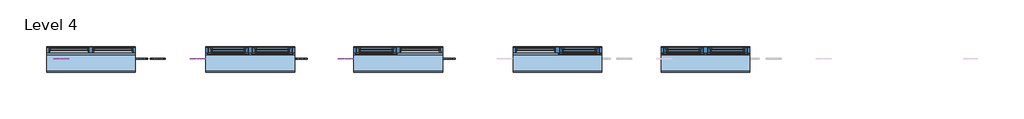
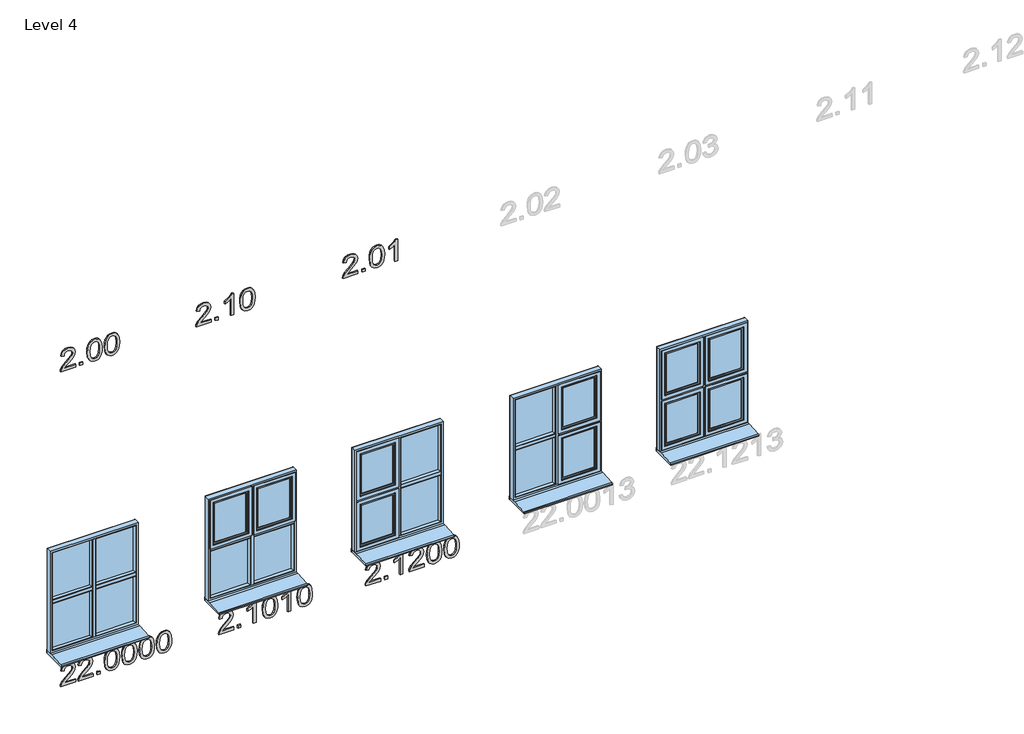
# One storey, part 1 of 2: 6 proxies, 5 windows.
"""IFC4 building model written with IfcOpenShell, lengths in millimetres."""

from ifc_helpers import new_model, si_unit, frame, origin, place, context, project, spatial, polyline, outline, extrude, transform, mapped, element, save
from components import standard_2_6dee1fca, standard_2_6696740c, standard_2_e76dede1, standard_2_dd93400c, standard_2_fe74481d, standard_2_6e61233b

model = new_model("IFC4")

# Units and contexts
model_context = context("Model", 3, world=origin())
ifc_project = project(units=[si_unit("LENGTHUNIT", "METRE", prefix="MILLI")], contexts=[model_context])

# Site, building, storey
site = spatial("IfcSite", under=ifc_project)
building = spatial("IfcBuilding", under=site)
storey = spatial("IfcBuildingStorey", under=building, Name="Level 4", Elevation=9000.0)

# Proxies
placement = place(None, origin())
element("IfcBuildingElementProxy", 1, Name="200mm Arial", ObjectType="200mm Arial", at=placement, inside=storey, context=model_context, shape_type="SweptSolid", body=[
    extrude(outline(polyline([(11979.7533372, -171019.8584647), (11979.7533372, -171118.4998903), (11992.5311052, -171107.1691249), (12016.6886895, -171078.2781255), (12051.0979188, -171042.2992664), (12075.721487, -171027.4613593), (12099.5357149, -171022.9977244), (12121.4369563, -171027.1363968), (12139.4631741, -171039.5524142), (12151.5297035, -171059.068554), (12155.55188, -171084.507594), (12151.9343737, -171109.7626929), (12141.0818548, -171129.315621), (12123.3376799, -171142.4796651), (12099.0452055, -171148.5681121), (12095.9059458, -171123.4540345), (12110.3391828, -171120.7378391), (12121.265278, -171112.8835585), (12128.1446714, -171100.7127959), (12130.4378025, -171085.0471542), (12128.0894891, -171070.1295393), (12121.0445488, -171058.3389214), (12110.5905688, -171050.6685818), (12098.0151359, -171048.1118019), (12083.9865692, -171050.821866), (12069.565595, -171058.952058), (12027.7251494, -171102.3130825), (11998.6134208, -171133.7547304), (11971.9542389, -171149.0095705), (11954.6392597, -171151.7073718), (11954.6392597, -171019.8584647), (11979.7533372, -171019.8584647)])), frame((0.0, 24202.6264647, 0.0), z_axis=(0.0, 1.0, 0.0), x_axis=(0.0, 0.0, 1.0)), (0.0, 0.0, 1.0), 10.0),
    extrude(outline(polyline([(-170957.0732708, 24202.6264647), (-170982.1873484, 24202.6264647), (-170982.1873484, 24212.6264647), (-170957.0732708, 24212.6264647), (-170957.0732708, 24202.6264647)])), frame((0.0, 0.0, 11954.6392597), z_axis=(0.0, 0.0, 1.0), x_axis=(1.0, 0.0, 0.0)), (0.0, 0.0, 1.0), 25.1140775),
    extrude(outline(polyline([(12053.4768891, -170916.2628949), (12004.6098974, -170911.2596997), (11985.7590108, -170905.0057058), (11970.6298637, -170896.2501143), (11956.2824659, -170876.4335375), (11951.5, -170850.3384413), (11954.2529836, -170830.0374865), (11962.5119344, -170813.5747673), (11976.3688229, -170800.8399189), (11995.9156196, -170791.7225768), (12021.5018123, -170786.241135), (12053.4768891, -170784.4139878), (12100.6884118, -170788.9757245), (12130.413277, -170800.7479484), (12141.1738253, -170809.4177007), (12149.0771569, -170821.0059836), (12153.9331992, -170834.8628721), (12155.55188, -170850.3384413), (12152.8172905, -170870.5290315), (12144.613522, -170886.9549626), (12130.8118158, -170899.7082051), (12111.2834132, -170908.8807295), (12085.6359068, -170914.4173535), (12053.4768891, -170916.2628949)]), holes=[polyline([(12053.52594, -170891.1488173), (12092.5214315, -170888.1076595), (12116.9978469, -170878.984186), (12127.0778136, -170866.3535708), (12130.4378025, -170850.6327469), (12126.6240924, -170834.0290062), (12115.1829624, -170820.9078817), (12092.1412868, -170812.3730194), (12053.52594, -170809.5280653), (12014.0828587, -170812.4711213), (11991.20673, -170821.3002892), (11980.2622407, -170834.4459391), (11976.6140775, -170850.3384413), (11980.2499779, -170866.2309435), (11991.1576791, -170879.3765935), (12014.0215451, -170888.2057614), (12053.52594, -170891.1488173)])]), frame((0.0, 24202.6264647, 0.0), z_axis=(0.0, 1.0, 0.0), x_axis=(0.0, 0.0, 1.0)), (0.0, 0.0, 1.0), 10.0),
    extrude(outline(polyline([(12053.4768891, -170762.4391699), (12004.6098974, -170757.4359748), (11985.7590108, -170751.1819809), (11970.6298637, -170742.4263894), (11956.2824659, -170722.6098126), (11951.5, -170696.5147164), (11954.2529836, -170676.2137616), (11962.5119344, -170659.7510423), (11976.3688229, -170647.0161939), (11995.9156196, -170637.8988518), (12021.5018123, -170632.4174101), (12053.4768891, -170630.5902629), (12100.6884118, -170635.1519996), (12130.413277, -170646.9242234), (12141.1738253, -170655.5939758), (12149.0771569, -170667.1822587), (12153.9331992, -170681.0391471), (12155.55188, -170696.5147164), (12152.8172905, -170716.7053066), (12144.613522, -170733.1312377), (12130.8118158, -170745.8844802), (12111.2834132, -170755.0570046), (12085.6359068, -170760.5936286), (12053.4768891, -170762.4391699)]), holes=[polyline([(12053.52594, -170737.3250924), (12092.5214315, -170734.2839346), (12116.9978469, -170725.1604611), (12127.0778136, -170712.5298459), (12130.4378025, -170696.809022), (12126.6240924, -170680.2052813), (12115.1829624, -170667.0841568), (12092.1412868, -170658.5492945), (12053.52594, -170655.7043404), (12014.0828587, -170658.6473964), (11991.20673, -170667.4765642), (11980.2622407, -170680.6222142), (11976.6140775, -170696.5147164), (11980.2499779, -170712.4072186), (11991.1576791, -170725.5528686), (12014.0215451, -170734.3820364), (12053.52594, -170737.3250924)])]), frame((0.0, 24202.6264647, 0.0), z_axis=(0.0, 1.0, 0.0), x_axis=(0.0, 0.0, 1.0)), (0.0, 0.0, 1.0), 10.0),
])
element("IfcBuildingElementProxy", 2, Name="200mm Arial", ObjectType="200mm Arial", at=placement, inside=storey, context=model_context, shape_type="SweptSolid", body=[
    extrude(outline(polyline([(11979.7533372, -169819.8584647), (11979.7533372, -169918.4998903), (11992.5311052, -169907.1691249), (12016.6886895, -169878.2781255), (12051.0979188, -169842.2992664), (12075.721487, -169827.4613593), (12099.5357149, -169822.9977244), (12121.4369563, -169827.1363968), (12139.4631741, -169839.5524142), (12151.5297035, -169859.068554), (12155.55188, -169884.507594), (12151.9343737, -169909.7626929), (12141.0818548, -169929.315621), (12123.3376799, -169942.4796651), (12099.0452055, -169948.5681121), (12095.9059458, -169923.4540345), (12110.3391828, -169920.7378391), (12121.265278, -169912.8835585), (12128.1446714, -169900.7127959), (12130.4378025, -169885.0471542), (12128.0894891, -169870.1295393), (12121.0445488, -169858.3389214), (12110.5905688, -169850.6685818), (12098.0151359, -169848.1118019), (12083.9865692, -169850.821866), (12069.565595, -169858.952058), (12027.7251494, -169902.3130825), (11998.6134208, -169933.7547304), (11971.9542389, -169949.0095705), (11954.6392597, -169951.7073718), (11954.6392597, -169819.8584647), (11979.7533372, -169819.8584647)])), frame((0.0, 24202.6264647, 0.0), z_axis=(0.0, 1.0, 0.0), x_axis=(0.0, 0.0, 1.0)), (0.0, 0.0, 1.0), 10.0),
    extrude(outline(polyline([(-169757.0732708, 24202.6264647), (-169782.1873484, 24202.6264647), (-169782.1873484, 24212.6264647), (-169757.0732708, 24212.6264647), (-169757.0732708, 24202.6264647)])), frame((0.0, 0.0, 11954.6392597), z_axis=(0.0, 0.0, 1.0), x_axis=(1.0, 0.0, 0.0)), (0.0, 0.0, 1.0), 25.1140775),
    extrude(outline(polyline([(11954.6392597, -169622.0851041), (12155.55188, -169622.0851041), (12155.55188, -169638.2719119), (12142.3939673, -169647.1439993), (12128.8191217, -169660.6146117), (12105.3237249, -169697.4273367), (12081.5830735, -169697.4273367), (12094.2627396, -169670.988884), (12111.2098368, -169647.1991816), (11954.6392597, -169647.1991816), (11954.6392597, -169622.0851041)])), frame((0.0, 24202.6264647, 0.0), z_axis=(0.0, 1.0, 0.0), x_axis=(0.0, 0.0, 1.0)), (0.0, 0.0, 1.0), 10.0),
    extrude(outline(polyline([(12053.4768891, -169562.4391699), (12004.6098974, -169557.4359748), (11985.7590108, -169551.1819809), (11970.6298637, -169542.4263894), (11956.2824659, -169522.6098126), (11951.5, -169496.5147164), (11954.2529836, -169476.2137616), (11962.5119344, -169459.7510423), (11976.3688229, -169447.0161939), (11995.9156196, -169437.8988518), (12021.5018123, -169432.4174101), (12053.4768891, -169430.5902629), (12100.6884118, -169435.1519996), (12130.413277, -169446.9242234), (12141.1738253, -169455.5939758), (12149.0771569, -169467.1822587), (12153.9331992, -169481.0391471), (12155.55188, -169496.5147164), (12152.8172905, -169516.7053066), (12144.613522, -169533.1312377), (12130.8118158, -169545.8844802), (12111.2834132, -169555.0570046), (12085.6359068, -169560.5936286), (12053.4768891, -169562.4391699)]), holes=[polyline([(12053.52594, -169537.3250924), (12092.5214315, -169534.2839346), (12116.9978469, -169525.1604611), (12127.0778136, -169512.5298459), (12130.4378025, -169496.809022), (12126.6240924, -169480.2052813), (12115.1829624, -169467.0841568), (12092.1412868, -169458.5492945), (12053.52594, -169455.7043404), (12014.0828587, -169458.6473964), (11991.20673, -169467.4765642), (11980.2622407, -169480.6222142), (11976.6140775, -169496.5147164), (11980.2499779, -169512.4072186), (11991.1576791, -169525.5528686), (12014.0215451, -169534.3820364), (12053.52594, -169537.3250924)])]), frame((0.0, 24202.6264647, 0.0), z_axis=(0.0, 1.0, 0.0), x_axis=(0.0, 0.0, 1.0)), (0.0, 0.0, 1.0), 10.0),
])
element("IfcBuildingElementProxy", 3, Name="200mm Arial", ObjectType="200mm Arial", at=placement, inside=storey, context=model_context, shape_type="SweptSolid", body=[
    extrude(outline(polyline([(11979.7533372, -168519.8584647), (11979.7533372, -168618.4998903), (11992.5311052, -168607.1691249), (12016.6886895, -168578.2781255), (12051.0979188, -168542.2992664), (12075.721487, -168527.4613593), (12099.5357149, -168522.9977244), (12121.4369563, -168527.1363968), (12139.4631741, -168539.5524142), (12151.5297035, -168559.068554), (12155.55188, -168584.507594), (12151.9343737, -168609.7626929), (12141.0818548, -168629.315621), (12123.3376799, -168642.4796651), (12099.0452055, -168648.5681121), (12095.9059458, -168623.4540345), (12110.3391828, -168620.7378391), (12121.265278, -168612.8835585), (12128.1446714, -168600.7127959), (12130.4378025, -168585.0471542), (12128.0894891, -168570.1295393), (12121.0445488, -168558.3389214), (12110.5905688, -168550.6685818), (12098.0151359, -168548.1118019), (12083.9865692, -168550.821866), (12069.565595, -168558.952058), (12027.7251494, -168602.3130825), (11998.6134208, -168633.7547304), (11971.9542389, -168649.0095705), (11954.6392597, -168651.7073718), (11954.6392597, -168519.8584647), (11979.7533372, -168519.8584647)])), frame((0.0, 24202.6264647, 0.0), z_axis=(0.0, 1.0, 0.0), x_axis=(0.0, 0.0, 1.0)), (0.0, 0.0, 1.0), 10.0),
    extrude(outline(polyline([(-168457.0732708, 24202.6264647), (-168482.1873484, 24202.6264647), (-168482.1873484, 24212.6264647), (-168457.0732708, 24212.6264647), (-168457.0732708, 24202.6264647)])), frame((0.0, 0.0, 11954.6392597), z_axis=(0.0, 0.0, 1.0), x_axis=(1.0, 0.0, 0.0)), (0.0, 0.0, 1.0), 25.1140775),
    extrude(outline(polyline([(12053.4768891, -168416.2628949), (12004.6098974, -168411.2596997), (11985.7590108, -168405.0057058), (11970.6298637, -168396.2501143), (11956.2824659, -168376.4335375), (11951.5, -168350.3384413), (11954.2529836, -168330.0374865), (11962.5119344, -168313.5747673), (11976.3688229, -168300.8399189), (11995.9156196, -168291.7225768), (12021.5018123, -168286.241135), (12053.4768891, -168284.4139878), (12100.6884118, -168288.9757245), (12130.413277, -168300.7479484), (12141.1738253, -168309.4177007), (12149.0771569, -168321.0059836), (12153.9331992, -168334.8628721), (12155.55188, -168350.3384413), (12152.8172905, -168370.5290315), (12144.613522, -168386.9549626), (12130.8118158, -168399.7082051), (12111.2834132, -168408.8807295), (12085.6359068, -168414.4173535), (12053.4768891, -168416.2628949)]), holes=[polyline([(12053.52594, -168391.1488173), (12092.5214315, -168388.1076595), (12116.9978469, -168378.984186), (12127.0778136, -168366.3535708), (12130.4378025, -168350.6327469), (12126.6240924, -168334.0290062), (12115.1829624, -168320.9078817), (12092.1412868, -168312.3730194), (12053.52594, -168309.5280653), (12014.0828587, -168312.4711213), (11991.20673, -168321.3002892), (11980.2622407, -168334.4459391), (11976.6140775, -168350.3384413), (11980.2499779, -168366.2309435), (11991.1576791, -168379.3765935), (12014.0215451, -168388.2057614), (12053.52594, -168391.1488173)])]), frame((0.0, 24202.6264647, 0.0), z_axis=(0.0, 1.0, 0.0), x_axis=(0.0, 0.0, 1.0)), (0.0, 0.0, 1.0), 10.0),
    extrude(outline(polyline([(11954.6392597, -168168.2613792), (12155.55188, -168168.2613792), (12155.55188, -168184.448187), (12142.3939673, -168193.3202744), (12128.8191217, -168206.7908868), (12105.3237249, -168243.6036118), (12081.5830735, -168243.6036118), (12094.2627396, -168217.1651591), (12111.2098368, -168193.3754567), (11954.6392597, -168193.3754567), (11954.6392597, -168168.2613792)])), frame((0.0, 24202.6264647, 0.0), z_axis=(0.0, 1.0, 0.0), x_axis=(0.0, 0.0, 1.0)), (0.0, 0.0, 1.0), 10.0),
])
element("IfcBuildingElementProxy", 4, Name="200mm Arial", ObjectType="200mm Arial", at=placement, inside=storey, context=model_context, shape_type="SweptSolid", body=[
    extrude(outline(polyline([(9028.2533372, -171019.8584647), (9028.2533372, -171118.4998903), (9041.0311052, -171107.1691249), (9065.1886895, -171078.2781255), (9099.5979188, -171042.2992664), (9124.221487, -171027.4613593), (9148.0357149, -171022.9977244), (9169.9369563, -171027.1363968), (9187.9631741, -171039.5524142), (9200.0297035, -171059.068554), (9204.05188, -171084.507594), (9200.4343737, -171109.7626929), (9189.5818548, -171129.315621), (9171.8376799, -171142.4796651), (9147.5452055, -171148.5681121), (9144.4059458, -171123.4540345), (9158.8391828, -171120.7378391), (9169.765278, -171112.8835585), (9176.6446714, -171100.7127959), (9178.9378025, -171085.0471542), (9176.5894891, -171070.1295393), (9169.5445488, -171058.3389214), (9159.0905688, -171050.6685818), (9146.5151359, -171048.1118019), (9132.4865692, -171050.821866), (9118.065595, -171058.952058), (9076.2251494, -171102.3130825), (9047.1134208, -171133.7547304), (9020.4542389, -171149.0095705), (9003.1392597, -171151.7073718), (9003.1392597, -171019.8584647), (9028.2533372, -171019.8584647)])), frame((0.0, 24202.6264647, 0.0), z_axis=(0.0, 1.0, 0.0), x_axis=(0.0, 0.0, 1.0)), (0.0, 0.0, 1.0), 10.0),
    extrude(outline(polyline([(9028.2533372, -170866.0347398), (9028.2533372, -170964.6761654), (9041.0311052, -170953.3454), (9065.1886895, -170924.4544006), (9099.5979188, -170888.4755415), (9124.221487, -170873.6376343), (9148.0357149, -170869.1739995), (9169.9369563, -170873.3126719), (9187.9631741, -170885.7286893), (9200.0297035, -170905.2448291), (9204.05188, -170930.6838691), (9200.4343737, -170955.938968), (9189.5818548, -170975.4918961), (9171.8376799, -170988.6559401), (9147.5452055, -170994.7443872), (9144.4059458, -170969.6303096), (9158.8391828, -170966.9141142), (9169.765278, -170959.0598336), (9176.6446714, -170946.8890709), (9178.9378025, -170931.2234293), (9176.5894891, -170916.3058144), (9169.5445488, -170904.5151965), (9159.0905688, -170896.8448569), (9146.5151359, -170894.288077), (9132.4865692, -170896.998141), (9118.065595, -170905.1283331), (9076.2251494, -170948.4893576), (9047.1134208, -170979.9310055), (9020.4542389, -170995.1858455), (9003.1392597, -170997.8836468), (9003.1392597, -170866.0347398), (9028.2533372, -170866.0347398)])), frame((0.0, 24202.6264647, 0.0), z_axis=(0.0, 1.0, 0.0), x_axis=(0.0, 0.0, 1.0)), (0.0, 0.0, 1.0), 10.0),
    extrude(outline(polyline([(-170803.2495459, 24202.6264647), (-170828.3636235, 24202.6264647), (-170828.3636235, 24212.6264647), (-170803.2495459, 24212.6264647), (-170803.2495459, 24202.6264647)])), frame((0.0, 0.0, 9003.1392597), z_axis=(0.0, 0.0, 1.0), x_axis=(1.0, 0.0, 0.0)), (0.0, 0.0, 1.0), 25.1140775),
    extrude(outline(polyline([(9101.9768891, -170762.4391699), (9053.1098974, -170757.4359748), (9034.2590108, -170751.1819809), (9019.1298637, -170742.4263894), (9004.7824659, -170722.6098126), (9000.0, -170696.5147164), (9002.7529836, -170676.2137616), (9011.0119344, -170659.7510423), (9024.8688229, -170647.0161939), (9044.4156196, -170637.8988518), (9070.0018123, -170632.4174101), (9101.9768891, -170630.5902629), (9149.1884118, -170635.1519996), (9178.913277, -170646.9242234), (9189.6738253, -170655.5939758), (9197.5771569, -170667.1822587), (9202.4331992, -170681.0391471), (9204.05188, -170696.5147164), (9201.3172905, -170716.7053066), (9193.113522, -170733.1312377), (9179.3118158, -170745.8844802), (9159.7834132, -170755.0570046), (9134.1359068, -170760.5936286), (9101.9768891, -170762.4391699)]), holes=[polyline([(9102.02594, -170737.3250924), (9141.0214315, -170734.2839346), (9165.4978469, -170725.1604611), (9175.5778136, -170712.5298459), (9178.9378025, -170696.809022), (9175.1240924, -170680.2052813), (9163.6829624, -170667.0841568), (9140.6412868, -170658.5492945), (9102.02594, -170655.7043404), (9062.5828587, -170658.6473964), (9039.70673, -170667.4765642), (9028.7622407, -170680.6222142), (9025.1140775, -170696.5147164), (9028.7499779, -170712.4072186), (9039.6576791, -170725.5528686), (9062.5215451, -170734.3820364), (9102.02594, -170737.3250924)])]), frame((0.0, 24202.6264647, 0.0), z_axis=(0.0, 1.0, 0.0), x_axis=(0.0, 0.0, 1.0)), (0.0, 0.0, 1.0), 10.0),
    extrude(outline(polyline([(9101.9768891, -170608.615445), (9053.1098974, -170603.6122499), (9034.2590108, -170597.358256), (9019.1298637, -170588.6026645), (9004.7824659, -170568.7860877), (9000.0, -170542.6909915), (9002.7529836, -170522.3900367), (9011.0119344, -170505.9273174), (9024.8688229, -170493.192469), (9044.4156196, -170484.0751269), (9070.0018123, -170478.5936852), (9101.9768891, -170476.7665379), (9149.1884118, -170481.3282747), (9178.913277, -170493.1004985), (9189.6738253, -170501.7702509), (9197.5771569, -170513.3585337), (9202.4331992, -170527.2154222), (9204.05188, -170542.6909915), (9201.3172905, -170562.8815817), (9193.113522, -170579.3075127), (9179.3118158, -170592.0607552), (9159.7834132, -170601.2332796), (9134.1359068, -170606.7699037), (9101.9768891, -170608.615445)]), holes=[polyline([(9102.02594, -170583.5013675), (9141.0214315, -170580.4602097), (9165.4978469, -170571.3367362), (9175.5778136, -170558.706121), (9178.9378025, -170542.9852971), (9175.1240924, -170526.3815564), (9163.6829624, -170513.2604319), (9140.6412868, -170504.7255696), (9102.02594, -170501.8806155), (9062.5828587, -170504.8236714), (9039.70673, -170513.6528393), (9028.7622407, -170526.7984893), (9025.1140775, -170542.6909915), (9028.7499779, -170558.5834937), (9039.6576791, -170571.7291436), (9062.5215451, -170580.5583115), (9102.02594, -170583.5013675)])]), frame((0.0, 24202.6264647, 0.0), z_axis=(0.0, 1.0, 0.0), x_axis=(0.0, 0.0, 1.0)), (0.0, 0.0, 1.0), 10.0),
    extrude(outline(polyline([(9101.9768891, -170454.7917201), (9053.1098974, -170449.788525), (9034.2590108, -170443.534531), (9019.1298637, -170434.7789396), (9004.7824659, -170414.9623628), (9000.0, -170388.8672666), (9002.7529836, -170368.5663118), (9011.0119344, -170352.1035925), (9024.8688229, -170339.3687441), (9044.4156196, -170330.251402), (9070.0018123, -170324.7699603), (9101.9768891, -170322.942813), (9149.1884118, -170327.5045498), (9178.913277, -170339.2767736), (9189.6738253, -170347.946526), (9197.5771569, -170359.5348088), (9202.4331992, -170373.3916973), (9204.05188, -170388.8672666), (9201.3172905, -170409.0578567), (9193.113522, -170425.4837878), (9179.3118158, -170438.2370303), (9159.7834132, -170447.4095547), (9134.1359068, -170452.9461788), (9101.9768891, -170454.7917201)]), holes=[polyline([(9102.02594, -170429.6776426), (9141.0214315, -170426.6364847), (9165.4978469, -170417.5130113), (9175.5778136, -170404.8823961), (9178.9378025, -170389.1615722), (9175.1240924, -170372.5578314), (9163.6829624, -170359.436707), (9140.6412868, -170350.9018447), (9102.02594, -170348.0568906), (9062.5828587, -170350.9999465), (9039.70673, -170359.8291144), (9028.7622407, -170372.9747644), (9025.1140775, -170388.8672666), (9028.7499779, -170404.7597688), (9039.6576791, -170417.9054187), (9062.5215451, -170426.7345866), (9102.02594, -170429.6776426)])]), frame((0.0, 24202.6264647, 0.0), z_axis=(0.0, 1.0, 0.0), x_axis=(0.0, 0.0, 1.0)), (0.0, 0.0, 1.0), 10.0),
    extrude(outline(polyline([(9101.9768891, -170300.9679952), (9053.1098974, -170295.9648001), (9034.2590108, -170289.7108061), (9019.1298637, -170280.9552146), (9004.7824659, -170261.1386378), (9000.0, -170235.0435416), (9002.7529836, -170214.7425869), (9011.0119344, -170198.2798676), (9024.8688229, -170185.5450192), (9044.4156196, -170176.4276771), (9070.0018123, -170170.9462354), (9101.9768891, -170169.1190881), (9149.1884118, -170173.6808249), (9178.913277, -170185.4530487), (9189.6738253, -170194.1228011), (9197.5771569, -170205.7110839), (9202.4331992, -170219.5679724), (9204.05188, -170235.0435416), (9201.3172905, -170255.2341318), (9193.113522, -170271.6600629), (9179.3118158, -170284.4133054), (9159.7834132, -170293.5858298), (9134.1359068, -170299.1224538), (9101.9768891, -170300.9679952)]), holes=[polyline([(9102.02594, -170275.8539176), (9141.0214315, -170272.8127598), (9165.4978469, -170263.6892863), (9175.5778136, -170251.0586712), (9178.9378025, -170235.3378472), (9175.1240924, -170218.7341065), (9163.6829624, -170205.612982), (9140.6412868, -170197.0781197), (9102.02594, -170194.2331657), (9062.5828587, -170197.1762216), (9039.70673, -170206.0053895), (9028.7622407, -170219.1510395), (9025.1140775, -170235.0435416), (9028.7499779, -170250.9360438), (9039.6576791, -170264.0816938), (9062.5215451, -170272.9108617), (9102.02594, -170275.8539176)])]), frame((0.0, 24202.6264647, 0.0), z_axis=(0.0, 1.0, 0.0), x_axis=(0.0, 0.0, 1.0)), (0.0, 0.0, 1.0), 10.0),
])
element("IfcBuildingElementProxy", 5, Name="200mm Arial", ObjectType="200mm Arial", at=placement, inside=storey, context=model_context, shape_type="SweptSolid", body=[
    extrude(outline(polyline([(9028.2533372, -169619.8584647), (9028.2533372, -169718.4998903), (9041.0311052, -169707.1691249), (9065.1886895, -169678.2781255), (9099.5979188, -169642.2992664), (9124.221487, -169627.4613593), (9148.0357149, -169622.9977244), (9169.9369563, -169627.1363968), (9187.9631741, -169639.5524142), (9200.0297035, -169659.068554), (9204.05188, -169684.507594), (9200.4343737, -169709.7626929), (9189.5818548, -169729.315621), (9171.8376799, -169742.4796651), (9147.5452055, -169748.5681121), (9144.4059458, -169723.4540345), (9158.8391828, -169720.7378391), (9169.765278, -169712.8835585), (9176.6446714, -169700.7127959), (9178.9378025, -169685.0471542), (9176.5894891, -169670.1295393), (9169.5445488, -169658.3389214), (9159.0905688, -169650.6685818), (9146.5151359, -169648.1118019), (9132.4865692, -169650.821866), (9118.065595, -169658.952058), (9076.2251494, -169702.3130825), (9047.1134208, -169733.7547304), (9020.4542389, -169749.0095705), (9003.1392597, -169751.7073718), (9003.1392597, -169619.8584647), (9028.2533372, -169619.8584647)])), frame((0.0, 24202.6264647, 0.0), z_axis=(0.0, 1.0, 0.0), x_axis=(0.0, 0.0, 1.0)), (0.0, 0.0, 1.0), 10.0),
    extrude(outline(polyline([(-169557.0732708, 24202.6264647), (-169582.1873484, 24202.6264647), (-169582.1873484, 24212.6264647), (-169557.0732708, 24212.6264647), (-169557.0732708, 24202.6264647)])), frame((0.0, 0.0, 9003.1392597), z_axis=(0.0, 0.0, 1.0), x_axis=(1.0, 0.0, 0.0)), (0.0, 0.0, 1.0), 25.1140775),
    extrude(outline(polyline([(9003.1392597, -169422.0851041), (9204.05188, -169422.0851041), (9204.05188, -169438.2719119), (9190.8939673, -169447.1439993), (9177.3191217, -169460.6146117), (9153.8237249, -169497.4273367), (9130.0830735, -169497.4273367), (9142.7627396, -169470.988884), (9159.7098368, -169447.1991816), (9003.1392597, -169447.1991816), (9003.1392597, -169422.0851041)])), frame((0.0, 24202.6264647, 0.0), z_axis=(0.0, 1.0, 0.0), x_axis=(0.0, 0.0, 1.0)), (0.0, 0.0, 1.0), 10.0),
    extrude(outline(polyline([(9101.9768891, -169362.4391699), (9053.1098974, -169357.4359748), (9034.2590108, -169351.1819809), (9019.1298637, -169342.4263894), (9004.7824659, -169322.6098126), (9000.0, -169296.5147164), (9002.7529836, -169276.2137616), (9011.0119344, -169259.7510423), (9024.8688229, -169247.0161939), (9044.4156196, -169237.8988518), (9070.0018123, -169232.4174101), (9101.9768891, -169230.5902629), (9149.1884118, -169235.1519996), (9178.913277, -169246.9242234), (9189.6738253, -169255.5939758), (9197.5771569, -169267.1822587), (9202.4331992, -169281.0391471), (9204.05188, -169296.5147164), (9201.3172905, -169316.7053066), (9193.113522, -169333.1312377), (9179.3118158, -169345.8844802), (9159.7834132, -169355.0570046), (9134.1359068, -169360.5936286), (9101.9768891, -169362.4391699)]), holes=[polyline([(9102.02594, -169337.3250924), (9141.0214315, -169334.2839346), (9165.4978469, -169325.1604611), (9175.5778136, -169312.5298459), (9178.9378025, -169296.809022), (9175.1240924, -169280.2052813), (9163.6829624, -169267.0841568), (9140.6412868, -169258.5492945), (9102.02594, -169255.7043404), (9062.5828587, -169258.6473964), (9039.70673, -169267.4765642), (9028.7622407, -169280.6222142), (9025.1140775, -169296.5147164), (9028.7499779, -169312.4072186), (9039.6576791, -169325.5528686), (9062.5215451, -169334.3820364), (9102.02594, -169337.3250924)])]), frame((0.0, 24202.6264647, 0.0), z_axis=(0.0, 1.0, 0.0), x_axis=(0.0, 0.0, 1.0)), (0.0, 0.0, 1.0), 10.0),
    extrude(outline(polyline([(9003.1392597, -169114.4376543), (9204.05188, -169114.4376543), (9204.05188, -169130.624462), (9190.8939673, -169139.4965495), (9177.3191217, -169152.9671619), (9153.8237249, -169189.7798869), (9130.0830735, -169189.7798869), (9142.7627396, -169163.3414341), (9159.7098368, -169139.5517318), (9003.1392597, -169139.5517318), (9003.1392597, -169114.4376543)])), frame((0.0, 24202.6264647, 0.0), z_axis=(0.0, 1.0, 0.0), x_axis=(0.0, 0.0, 1.0)), (0.0, 0.0, 1.0), 10.0),
    extrude(outline(polyline([(9101.9768891, -169054.7917201), (9053.1098974, -169049.788525), (9034.2590108, -169043.534531), (9019.1298637, -169034.7789396), (9004.7824659, -169014.9623628), (9000.0, -168988.8672666), (9002.7529836, -168968.5663118), (9011.0119344, -168952.1035925), (9024.8688229, -168939.3687441), (9044.4156196, -168930.251402), (9070.0018123, -168924.7699603), (9101.9768891, -168922.942813), (9149.1884118, -168927.5045498), (9178.913277, -168939.2767736), (9189.6738253, -168947.946526), (9197.5771569, -168959.5348088), (9202.4331992, -168973.3916973), (9204.05188, -168988.8672666), (9201.3172905, -169009.0578567), (9193.113522, -169025.4837878), (9179.3118158, -169038.2370303), (9159.7834132, -169047.4095547), (9134.1359068, -169052.9461788), (9101.9768891, -169054.7917201)]), holes=[polyline([(9102.02594, -169029.6776426), (9141.0214315, -169026.6364847), (9165.4978469, -169017.5130113), (9175.5778136, -169004.8823961), (9178.9378025, -168989.1615722), (9175.1240924, -168972.5578314), (9163.6829624, -168959.436707), (9140.6412868, -168950.9018447), (9102.02594, -168948.0568906), (9062.5828587, -168950.9999465), (9039.70673, -168959.8291144), (9028.7622407, -168972.9747644), (9025.1140775, -168988.8672666), (9028.7499779, -169004.7597688), (9039.6576791, -169017.9054187), (9062.5215451, -169026.7345866), (9102.02594, -169029.6776426)])]), frame((0.0, 24202.6264647, 0.0), z_axis=(0.0, 1.0, 0.0), x_axis=(0.0, 0.0, 1.0)), (0.0, 0.0, 1.0), 10.0),
])
element("IfcBuildingElementProxy", 6, Name="200mm Arial", ObjectType="200mm Arial", at=placement, inside=storey, context=model_context, shape_type="SweptSolid", body=[
    extrude(outline(polyline([(9028.2533372, -168319.8584647), (9028.2533372, -168418.4998903), (9041.0311052, -168407.1691249), (9065.1886895, -168378.2781255), (9099.5979188, -168342.2992664), (9124.221487, -168327.4613593), (9148.0357149, -168322.9977244), (9169.9369563, -168327.1363968), (9187.9631741, -168339.5524142), (9200.0297035, -168359.068554), (9204.05188, -168384.507594), (9200.4343737, -168409.7626929), (9189.5818548, -168429.315621), (9171.8376799, -168442.4796651), (9147.5452055, -168448.5681121), (9144.4059458, -168423.4540345), (9158.8391828, -168420.7378391), (9169.765278, -168412.8835585), (9176.6446714, -168400.7127959), (9178.9378025, -168385.0471542), (9176.5894891, -168370.1295393), (9169.5445488, -168358.3389214), (9159.0905688, -168350.6685818), (9146.5151359, -168348.1118019), (9132.4865692, -168350.821866), (9118.065595, -168358.952058), (9076.2251494, -168402.3130825), (9047.1134208, -168433.7547304), (9020.4542389, -168449.0095705), (9003.1392597, -168451.7073718), (9003.1392597, -168319.8584647), (9028.2533372, -168319.8584647)])), frame((0.0, 24202.6264647, 0.0), z_axis=(0.0, 1.0, 0.0), x_axis=(0.0, 0.0, 1.0)), (0.0, 0.0, 1.0), 10.0),
    extrude(outline(polyline([(-168257.0732708, 24202.6264647), (-168282.1873484, 24202.6264647), (-168282.1873484, 24212.6264647), (-168257.0732708, 24212.6264647), (-168257.0732708, 24202.6264647)])), frame((0.0, 0.0, 9003.1392597), z_axis=(0.0, 0.0, 1.0), x_axis=(1.0, 0.0, 0.0)), (0.0, 0.0, 1.0), 25.1140775),
    extrude(outline(polyline([(9003.1392597, -168122.0851041), (9204.05188, -168122.0851041), (9204.05188, -168138.2719119), (9190.8939673, -168147.1439993), (9177.3191217, -168160.6146117), (9153.8237249, -168197.4273367), (9130.0830735, -168197.4273367), (9142.7627396, -168170.988884), (9159.7098368, -168147.1991816), (9003.1392597, -168147.1991816), (9003.1392597, -168122.0851041)])), frame((0.0, 24202.6264647, 0.0), z_axis=(0.0, 1.0, 0.0), x_axis=(0.0, 0.0, 1.0)), (0.0, 0.0, 1.0), 10.0),
    extrude(outline(polyline([(9028.2533372, -167933.7295226), (9028.2533372, -168032.3709482), (9041.0311052, -168021.0401827), (9065.1886895, -167992.1491834), (9099.5979188, -167956.1703243), (9124.221487, -167941.3324171), (9148.0357149, -167936.8687822), (9169.9369563, -167941.0074547), (9187.9631741, -167953.423472), (9200.0297035, -167972.9396119), (9204.05188, -167998.3786518), (9200.4343737, -168023.6337508), (9189.5818548, -168043.1866789), (9171.8376799, -168056.3507229), (9147.5452055, -168062.4391699), (9144.4059458, -168037.3250924), (9158.8391828, -168034.608897), (9169.765278, -168026.7546164), (9176.6446714, -168014.5838537), (9178.9378025, -167998.9182121), (9176.5894891, -167984.0005972), (9169.5445488, -167972.2099793), (9159.0905688, -167964.5396397), (9146.5151359, -167961.9828598), (9132.4865692, -167964.6929238), (9118.065595, -167972.8231159), (9076.2251494, -168016.1841404), (9047.1134208, -168047.6257883), (9020.4542389, -168062.8806283), (9003.1392597, -168065.5784296), (9003.1392597, -167933.7295226), (9028.2533372, -167933.7295226)])), frame((0.0, 24202.6264647, 0.0), z_axis=(0.0, 1.0, 0.0), x_axis=(0.0, 0.0, 1.0)), (0.0, 0.0, 1.0), 10.0),
    extrude(outline(polyline([(9101.9768891, -167908.615445), (9053.1098974, -167903.6122499), (9034.2590108, -167897.358256), (9019.1298637, -167888.6026645), (9004.7824659, -167868.7860877), (9000.0, -167842.6909915), (9002.7529836, -167822.3900367), (9011.0119344, -167805.9273174), (9024.8688229, -167793.192469), (9044.4156196, -167784.0751269), (9070.0018123, -167778.5936852), (9101.9768891, -167776.7665379), (9149.1884118, -167781.3282747), (9178.913277, -167793.1004985), (9189.6738253, -167801.7702509), (9197.5771569, -167813.3585337), (9202.4331992, -167827.2154222), (9204.05188, -167842.6909915), (9201.3172905, -167862.8815817), (9193.113522, -167879.3075127), (9179.3118158, -167892.0607552), (9159.7834132, -167901.2332796), (9134.1359068, -167906.7699037), (9101.9768891, -167908.615445)]), holes=[polyline([(9102.02594, -167883.5013675), (9141.0214315, -167880.4602097), (9165.4978469, -167871.3367362), (9175.5778136, -167858.706121), (9178.9378025, -167842.9852971), (9175.1240924, -167826.3815564), (9163.6829624, -167813.2604319), (9140.6412868, -167804.7255696), (9102.02594, -167801.8806155), (9062.5828587, -167804.8236714), (9039.70673, -167813.6528393), (9028.7622407, -167826.7984893), (9025.1140775, -167842.6909915), (9028.7499779, -167858.5834937), (9039.6576791, -167871.7291436), (9062.5215451, -167880.5583115), (9102.02594, -167883.5013675)])]), frame((0.0, 24202.6264647, 0.0), z_axis=(0.0, 1.0, 0.0), x_axis=(0.0, 0.0, 1.0)), (0.0, 0.0, 1.0), 10.0),
    extrude(outline(polyline([(9101.9768891, -167754.7917201), (9053.1098974, -167749.788525), (9034.2590108, -167743.534531), (9019.1298637, -167734.7789396), (9004.7824659, -167714.9623628), (9000.0, -167688.8672666), (9002.7529836, -167668.5663118), (9011.0119344, -167652.1035925), (9024.8688229, -167639.3687441), (9044.4156196, -167630.251402), (9070.0018123, -167624.7699603), (9101.9768891, -167622.942813), (9149.1884118, -167627.5045498), (9178.913277, -167639.2767736), (9189.6738253, -167647.946526), (9197.5771569, -167659.5348088), (9202.4331992, -167673.3916973), (9204.05188, -167688.8672666), (9201.3172905, -167709.0578567), (9193.113522, -167725.4837878), (9179.3118158, -167738.2370303), (9159.7834132, -167747.4095547), (9134.1359068, -167752.9461788), (9101.9768891, -167754.7917201)]), holes=[polyline([(9102.02594, -167729.6776426), (9141.0214315, -167726.6364847), (9165.4978469, -167717.5130113), (9175.5778136, -167704.8823961), (9178.9378025, -167689.1615722), (9175.1240924, -167672.5578314), (9163.6829624, -167659.436707), (9140.6412868, -167650.9018447), (9102.02594, -167648.0568906), (9062.5828587, -167650.9999465), (9039.70673, -167659.8291144), (9028.7622407, -167672.9747644), (9025.1140775, -167688.8672666), (9028.7499779, -167704.7597688), (9039.6576791, -167717.9054187), (9062.5215451, -167726.7345866), (9102.02594, -167729.6776426)])]), frame((0.0, 24202.6264647, 0.0), z_axis=(0.0, 1.0, 0.0), x_axis=(0.0, 0.0, 1.0)), (0.0, 0.0, 1.0), 10.0),
])

# Windows
standard_2_shape = standard_2_6dee1fca(model_context)
standard_2_2_shape = standard_2_6696740c(model_context)
element("IfcWindow", 7, ObjectType="SMARTS_AlithermHeritage : Standard 2", at=placement, inside=storey, context=model_context, shape_type="MappedRepresentation", body=[
    mapped(standard_2_shape, transform((-165423.3801149, 24355.9063079, 8668.8184812), x_axis=(-1.0, 0.0, 0.0), y_axis=(0.0, -1.0, 0.0), z_axis=(0.0, 0.0, 1.0))),
    mapped(standard_2_2_shape, transform((-165423.3801149, 24355.9063079, 8668.8184812), x_axis=(-1.0, 0.0, 0.0), y_axis=(0.0, -1.0, 0.0), z_axis=(0.0, 0.0, 1.0))),
])
standard_2_3_shape = standard_2_e76dede1(model_context)
element("IfcWindow", 8, ObjectType="SMARTS_AlithermHeritage : Standard 2", at=placement, inside=storey, context=model_context, shape_type="MappedRepresentation", body=[
    mapped(standard_2_3_shape, transform((-170823.3801149, 24355.9063079, 8668.8184812), x_axis=(-1.0, 0.0, 0.0), y_axis=(0.0, -1.0, 0.0), z_axis=(0.0, 0.0, 1.0))),
])
standard_2_4_shape = standard_2_dd93400c(model_context)
element("IfcWindow", 9, ObjectType="SMARTS_AlithermHeritage : Standard 2", at=placement, inside=storey, context=model_context, shape_type="MappedRepresentation", body=[
    mapped(standard_2_4_shape, transform((-169423.3801149, 24355.9063079, 8668.8184812), x_axis=(-1.0, 0.0, 0.0), y_axis=(0.0, -1.0, 0.0), z_axis=(0.0, 0.0, 1.0))),
])
standard_2_5_shape = standard_2_fe74481d(model_context)
element("IfcWindow", 10, ObjectType="SMARTS_AlithermHeritage : Standard 2", at=placement, inside=storey, context=model_context, shape_type="MappedRepresentation", body=[
    mapped(standard_2_5_shape, transform((-168123.3801149, 24355.9063079, 8668.8184812), x_axis=(-1.0, 0.0, 0.0), y_axis=(0.0, -1.0, 0.0), z_axis=(0.0, 0.0, 1.0))),
])
standard_2_6_shape = standard_2_6e61233b(model_context)
element("IfcWindow", 11, ObjectType="SMARTS_AlithermHeritage : Standard 2", at=placement, inside=storey, context=model_context, shape_type="MappedRepresentation", body=[
    mapped(standard_2_6_shape, transform((-166723.3801149, 24355.9063079, 8668.8184812), x_axis=(-1.0, 0.0, 0.0), y_axis=(0.0, -1.0, 0.0), z_axis=(0.0, 0.0, 1.0))),
])

save(model, "model.ifc")
